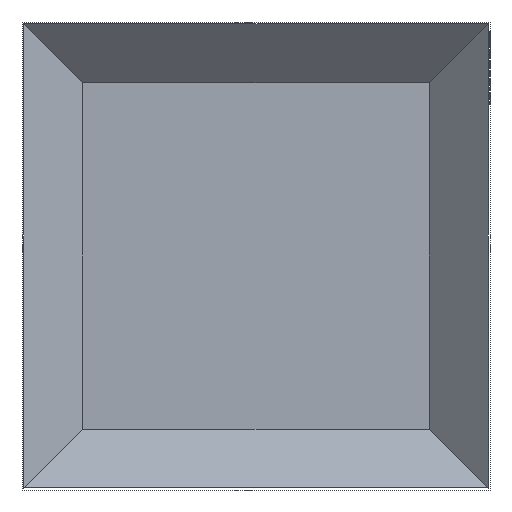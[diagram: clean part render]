
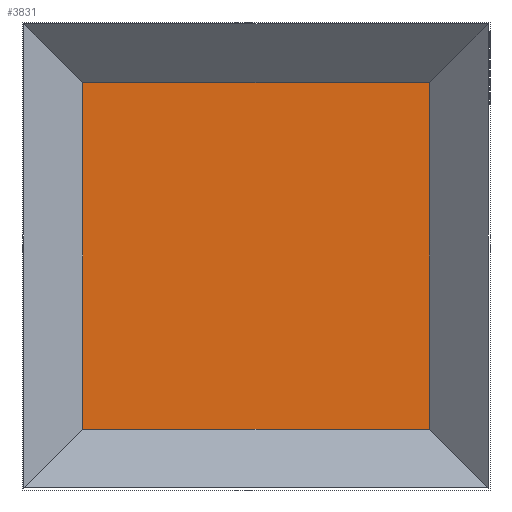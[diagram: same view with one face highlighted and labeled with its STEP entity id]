
A CAD part, front view. The second image highlights one B-rep face of the part: STEP entity #3831.
In plain terms, the highlighted planar face has unit normal (0, -1, 0).
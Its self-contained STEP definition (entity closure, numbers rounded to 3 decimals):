
#3760=DIRECTION('',(-0.707,0.,0.707));
#3761=VECTOR('',#3760,4.243);
#3762=CARTESIAN_POINT('',(89.,17.288,-313.138));
#3763=LINE('',#3762,#3761);
#3764=DIRECTION('',(0.,0.,1.));
#3765=VECTOR('',#3764,122.);
#3766=CARTESIAN_POINT('',(86.,17.288,-310.138));
#3767=LINE('',#3766,#3765);
#3768=DIRECTION('',(0.707,0.,0.707));
#3769=VECTOR('',#3768,4.243);
#3770=CARTESIAN_POINT('',(86.,17.288,-188.138));
#3771=LINE('',#3770,#3769);
#3772=DIRECTION('',(1.,0.,0.));
#3773=VECTOR('',#3772,122.);
#3774=CARTESIAN_POINT('',(89.,17.288,-185.138));
#3775=LINE('',#3774,#3773);
#3776=DIRECTION('',(0.707,0.,-0.707));
#3777=VECTOR('',#3776,4.243);
#3778=CARTESIAN_POINT('',(211.,17.288,-185.138));
#3779=LINE('',#3778,#3777);
#3780=DIRECTION('',(0.,0.,-1.));
#3781=VECTOR('',#3780,122.);
#3782=CARTESIAN_POINT('',(214.,17.288,-188.138));
#3783=LINE('',#3782,#3781);
#3784=DIRECTION('',(-0.707,0.,-0.707));
#3785=VECTOR('',#3784,4.243);
#3786=CARTESIAN_POINT('',(214.,17.288,-310.138));
#3787=LINE('',#3786,#3785);
#3788=DIRECTION('',(-1.,0.,0.));
#3789=VECTOR('',#3788,122.);
#3790=CARTESIAN_POINT('',(211.,17.288,-313.138));
#3791=LINE('',#3790,#3789);
#3792=CARTESIAN_POINT('',(86.,17.288,-310.138));
#3793=CARTESIAN_POINT('',(89.,17.288,-313.138));
#3794=VERTEX_POINT('',#3792);
#3795=VERTEX_POINT('',#3793);
#3796=CARTESIAN_POINT('',(89.,17.288,-185.138));
#3797=CARTESIAN_POINT('',(86.,17.288,-188.138));
#3798=VERTEX_POINT('',#3796);
#3799=VERTEX_POINT('',#3797);
#3800=CARTESIAN_POINT('',(214.,17.288,-188.138));
#3801=CARTESIAN_POINT('',(211.,17.288,-185.138));
#3802=VERTEX_POINT('',#3800);
#3803=VERTEX_POINT('',#3801);
#3804=CARTESIAN_POINT('',(211.,17.288,-313.138));
#3805=CARTESIAN_POINT('',(214.,17.288,-310.138));
#3806=VERTEX_POINT('',#3804);
#3807=VERTEX_POINT('',#3805);
#3808=CARTESIAN_POINT('',(86.,17.288,-185.138));
#3809=DIRECTION('',(0.,1.,0.));
#3810=DIRECTION('',(1.,0.,0.));
#3811=AXIS2_PLACEMENT_3D('',#3808,#3809,#3810);
#3812=PLANE('',#3811);
#3814=ORIENTED_EDGE('',*,*,#3813,.T.);
#3816=ORIENTED_EDGE('',*,*,#3815,.T.);
#3818=ORIENTED_EDGE('',*,*,#3817,.T.);
#3820=ORIENTED_EDGE('',*,*,#3819,.T.);
#3822=ORIENTED_EDGE('',*,*,#3821,.T.);
#3824=ORIENTED_EDGE('',*,*,#3823,.T.);
#3826=ORIENTED_EDGE('',*,*,#3825,.T.);
#3828=ORIENTED_EDGE('',*,*,#3827,.T.);
#3829=EDGE_LOOP('',(#3814,#3816,#3818,#3820,#3822,#3824,#3826,#3828));
#3830=FACE_OUTER_BOUND('',#3829,.F.);
#3831=ADVANCED_FACE('',(#3830),#3812,.F.);
#3813=EDGE_CURVE('',#3795,#3794,#3763,.T.);
#3815=EDGE_CURVE('',#3794,#3799,#3767,.T.);
#3817=EDGE_CURVE('',#3799,#3798,#3771,.T.);
#3819=EDGE_CURVE('',#3798,#3803,#3775,.T.);
#3821=EDGE_CURVE('',#3803,#3802,#3779,.T.);
#3823=EDGE_CURVE('',#3802,#3807,#3783,.T.);
#3825=EDGE_CURVE('',#3807,#3806,#3787,.T.);
#3827=EDGE_CURVE('',#3806,#3795,#3791,.T.);
